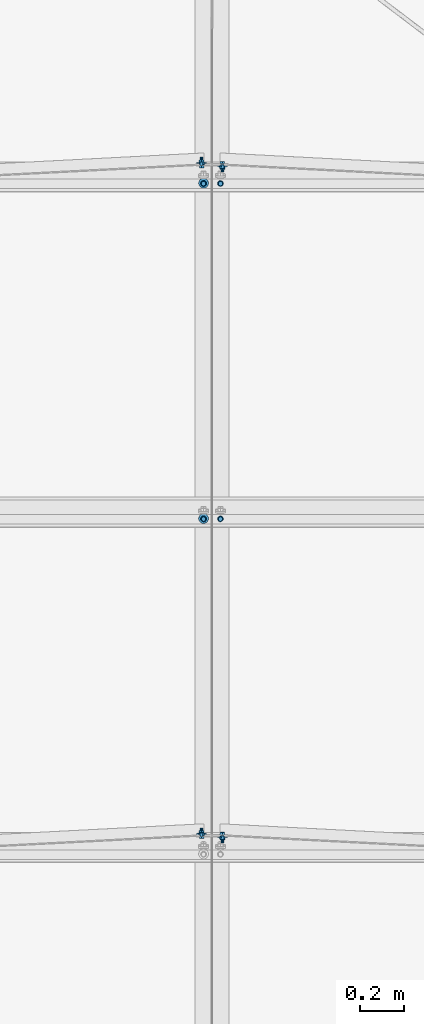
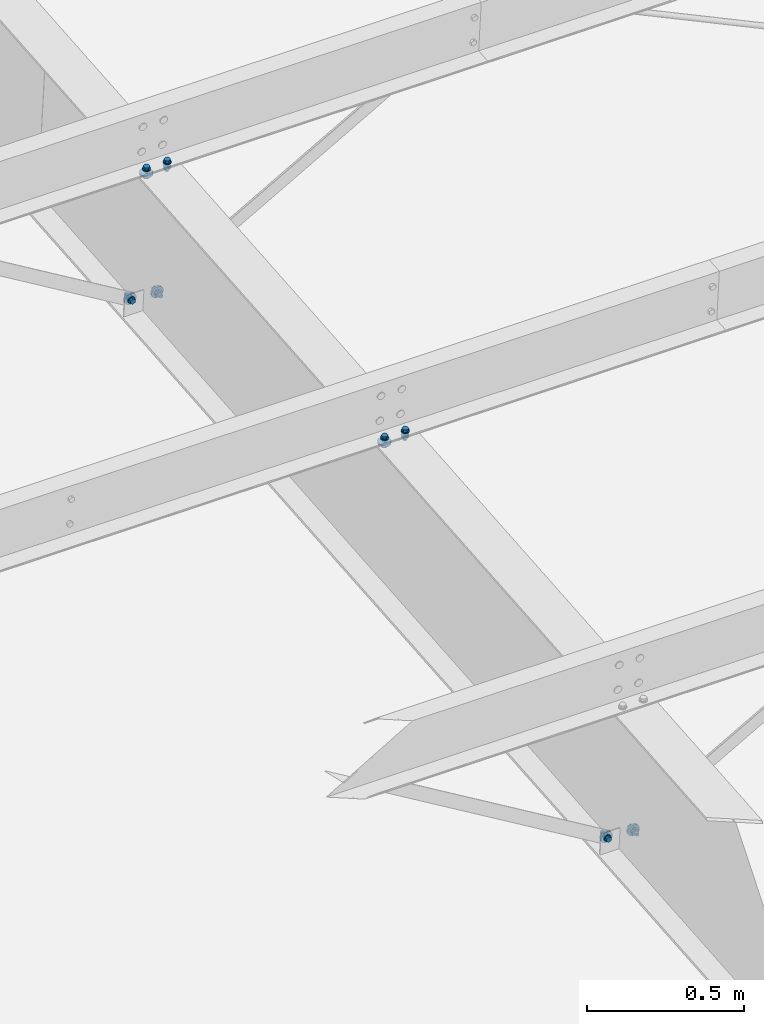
# One storey, part 129 of 185: 12 mechanical fasteners, 7 elements without a shape of their own.
"""IFC2X3 building model written with IfcOpenShell, lengths in millimetres."""

import ifcopenshell
import ifcopenshell.guid

model = None  # the IFC model being written
_history = None  # IfcOwnerHistory: only IFC2X3 demands one
_inside = {}  # id of a spatial element -> (the spatial element, [elements in it])
_under = {}  # id of a project, library or spatial element -> (it, [spatial elements below it])
_declared = {}  # id of a project -> (the project, [libraries it declares])
_typed = {}  # id of a type object -> (the type object, [elements of that type])
_made_of = {}  # id of a material, layer set ... -> (it, [elements and type objects made of it])


def new_model(schema):
    """Start an empty IFC model of exactly this schema.

    Asked for "IFC4X3", IfcOpenShell would pick the latest addendum, in which some entities
    have other attributes; the version numbers below select the first issue.
    IFC2X3 requires an IfcOwnerHistory on every rooted entity: one is made here for all.
    """
    global model, _history
    if schema == "IFC4X3":
        model = ifcopenshell.file(schema_version=(4, 3, 0, 0))
    else:
        model = ifcopenshell.file(schema=schema)
    _inside.clear()
    _under.clear()
    _declared.clear()
    _typed.clear()
    _made_of.clear()
    _history = None
    if model.schema == "IFC2X3":
        org = make("IfcOrganization", Name="unknown")
        user = make(
            "IfcPersonAndOrganization",
            ThePerson=make("IfcPerson", FamilyName="unknown"),
            TheOrganization=org,
        )
        app = make(
            "IfcApplication",
            ApplicationDeveloper=org,
            Version="unknown",
            ApplicationFullName="unknown",
            ApplicationIdentifier="unknown",
        )
        _history = make(
            "IfcOwnerHistory",
            OwningUser=user,
            OwningApplication=app,
            ChangeAction="ADDED",
            CreationDate=0,
        )
    return model


def make(cls, **values):
    """One entity of the class cls with the attributes given. An attribute that is None is left unset."""
    return model.create_entity(
        cls, **{name: value for name, value in values.items() if value is not None}
    )


def rooted(cls, **values):
    """An entity with a GlobalId (a new one), such as an element, a storey or a relation."""
    return make(cls, GlobalId=ifcopenshell.guid.new(), OwnerHistory=_history, **values)


def si_unit(unit_type, name, prefix=None):
    """IfcSIUnit, for example si_unit("LENGTHUNIT", "METRE", prefix="MILLI")."""
    return make("IfcSIUnit", UnitType=unit_type, Prefix=prefix, Name=name)


def assignment(units):
    """IfcUnitAssignment: the units of a project."""
    return None if units is None else make("IfcUnitAssignment", Units=units)


def point(xyz):
    """IfcCartesianPoint."""
    return None if xyz is None else make("IfcCartesianPoint", Coordinates=xyz)


def direction(xyz):
    """IfcDirection."""
    return None if xyz is None else make("IfcDirection", DirectionRatios=xyz)


def frame(location, z_axis=None, x_axis=None):
    """IfcAxis2Placement3D, a coordinate frame: its origin and axes. An axis left out is left unset."""
    return make(
        "IfcAxis2Placement3D",
        Location=point(location),
        Axis=direction(z_axis),
        RefDirection=direction(x_axis),
    )


def frame_2d(location, x_axis=None):
    """IfcAxis2Placement2D, a coordinate frame in the plane: its origin and x axis."""
    return make(
        "IfcAxis2Placement2D", Location=point(location), RefDirection=direction(x_axis)
    )


def origin_with_axes():
    """The frame at (0, 0, 0) with the z axis (0, 0, 1) and the x axis (1, 0, 0) written out."""
    return frame((0.0, 0.0, 0.0), z_axis=(0.0, 0.0, 1.0), x_axis=(1.0, 0.0, 0.0))


def origin_2d_with_axis():
    """The frame at (0, 0) in the plane with the x axis (1, 0) written out."""
    return frame_2d((0.0, 0.0), x_axis=(1.0, 0.0))


def place(relative_to, where):
    """IfcLocalPlacement: puts the frame where relative to a parent placement (None: the world)."""
    return make(
        "IfcLocalPlacement", PlacementRelTo=relative_to, RelativePlacement=where
    )


def context(
    kind, dimensions, precision=None, world=None, true_north=None, identifier=None
):
    """IfcGeometricRepresentationContext, for example the 3D "Model" context."""
    return make(
        "IfcGeometricRepresentationContext",
        ContextIdentifier=identifier,
        ContextType=kind,
        CoordinateSpaceDimension=dimensions,
        Precision=precision,
        WorldCoordinateSystem=world,
        TrueNorth=true_north,
    )


def subcontext(parent, identifier, kind, view, scale=None):
    """IfcGeometricRepresentationSubContext, for example "Body" below "Model"."""
    return make(
        "IfcGeometricRepresentationSubContext",
        ContextIdentifier=identifier,
        ContextType=kind,
        ParentContext=parent,
        TargetScale=scale,
        TargetView=view,
    )


def project(units=None, contexts=None):
    """IfcProject with its units and contexts."""
    return rooted(
        "IfcProject",
        Name="project",
        RepresentationContexts=contexts,
        UnitsInContext=assignment(units),
    )


def spatial(cls, under=None, at=None, **own):
    """A site, building, storey or space (cls), placed at a placement, below another one or the project."""
    s = rooted(cls, ObjectPlacement=at, **own)
    if under is not None:
        _under.setdefault(under.id(), (under, []))[1].append(s)
    return s


def polyline(points):
    """IfcPolyline through the points."""
    return make("IfcPolyline", Points=[point(p) for p in points])


def profile(cls, at=None, kind="AREA", **sizes):
    """A parametric profile (cls). Its sizes go by their IFC names, for example OverallWidth=200.0."""
    return make(cls, ProfileType=kind, Position=at, **sizes)


def circle(**sizes):
    """IfcCircleProfileDef."""
    return profile("IfcCircleProfileDef", **sizes)


def outline(outer, holes=None, kind="AREA"):
    """IfcArbitraryClosedProfileDef: a profile drawn as a closed curve; with holes, ...WithVoids."""
    if holes is None:
        return make("IfcArbitraryClosedProfileDef", ProfileType=kind, OuterCurve=outer)
    return make(
        "IfcArbitraryProfileDefWithVoids",
        ProfileType=kind,
        OuterCurve=outer,
        InnerCurves=holes,
    )


def extrude(swept, where, along, depth):
    """IfcExtrudedAreaSolid: the profile swept, set in the frame where, extruded along a direction by depth."""
    return make(
        "IfcExtrudedAreaSolid",
        SweptArea=swept,
        Position=where,
        ExtrudedDirection=direction(along),
        Depth=depth,
    )


def shape(context_of_items, identifier, shape_type, items):
    """IfcShapeRepresentation: the items that make up one representation, for example the "Body"."""
    return make(
        "IfcShapeRepresentation",
        ContextOfItems=context_of_items,
        RepresentationIdentifier=identifier,
        RepresentationType=shape_type,
        Items=items,
    )


def source(mapping_origin, context_of_items, identifier, shape_type, items):
    """IfcRepresentationMap: a shape defined once, which mapped items show again and again."""
    return make(
        "IfcRepresentationMap",
        MappingOrigin=mapping_origin,
        MappedRepresentation=shape(context_of_items, identifier, shape_type, items),
    )


def transform(
    local_origin,
    x_axis=None,
    y_axis=None,
    z_axis=None,
    scale=None,
    scale2=None,
    scale3=None,
    uniform=True,
):
    """IfcCartesianTransformationOperator3D, or its non-uniform kind. x_axis, y_axis, z_axis: its Axis1, 2, 3."""
    if uniform:
        return make(
            "IfcCartesianTransformationOperator3D",
            Axis1=direction(x_axis),
            Axis2=direction(y_axis),
            LocalOrigin=point(local_origin),
            Scale=scale,
            Axis3=direction(z_axis),
        )
    return make(
        "IfcCartesianTransformationOperator3DnonUniform",
        Axis1=direction(x_axis),
        Axis2=direction(y_axis),
        LocalOrigin=point(local_origin),
        Scale=scale,
        Axis3=direction(z_axis),
        Scale2=scale2,
        Scale3=scale3,
    )


def mapped(mapping_source, mapping_target):
    """IfcMappedItem: shows the shape of a source again, moved by a transform."""
    return make(
        "IfcMappedItem", MappingSource=mapping_source, MappingTarget=mapping_target
    )


def material(Name=None, Category=None):
    """IfcMaterial."""
    return make("IfcMaterial", Name=Name, Category=Category)


def made_of(thing, what):
    """Note that an element or type object is made of a material, layer set ...; save() writes the relation."""
    if what is not None:
        _made_of.setdefault(what.id(), (what, []))[1].append(thing)
    return thing


def type_object(cls, material=None, **own):
    """A type object (cls), such as IfcWallType, which elements share."""
    return made_of(rooted(cls, **own), material)


def element(
    cls,
    number,
    at=None,
    inside=None,
    cuts=None,
    type_object=None,
    material=None,
    context=None,
    identifier="Body",
    shape_type=None,
    held_by="IfcProductDefinitionShape",
    body=None,
    shapes=None,
    **own,
):
    """One element of the class cls, such as IfcWall. Its Tag is "e" and its number.

    at: its placement. inside: the storey or other place that contains it. cuts: it is an
    opening in that element (IfcRelVoidsElement). A single representation is given by context,
    identifier, shape_type and body (its items); several are given by shapes. held_by: the class
    of the entity that holds the representations. save() writes the other relations.
    """
    e = rooted(cls, Tag="e%d" % number, ObjectPlacement=at, **own)
    if body is not None:
        shapes = [shape(context, identifier, shape_type, body)]
    if shapes is not None:
        e.Representation = make(held_by, Representations=shapes)
    if inside is not None:
        _inside.setdefault(inside.id(), (inside, []))[1].append(e)
    if cuts is not None:
        rooted(
            "IfcRelVoidsElement", RelatingBuildingElement=cuts, RelatedOpeningElement=e
        )
    if type_object is not None:
        _typed.setdefault(type_object.id(), (type_object, []))[1].append(e)
    return made_of(e, material)


def aggregate(whole, parts):
    """IfcRelAggregates: a whole, such as a stair, and the parts it consists of."""
    return rooted("IfcRelAggregates", RelatingObject=whole, RelatedObjects=parts)


def save(model, path):
    """Write the relations noted so far, then the file.

    IfcRelAggregates (storeys below a building ...), IfcRelContainedInSpatialStructure (elements
    in a storey), IfcRelDefinesByType, IfcRelAssociatesMaterial and IfcRelDeclares: one each for
    every whole, place, type object, material and project.
    """
    for whole, parts in _under.values():
        aggregate(whole, parts)
    for where, things in _inside.values():
        rooted(
            "IfcRelContainedInSpatialStructure",
            RelatedElements=things,
            RelatingStructure=where,
        )
    for kind, things in _typed.values():
        rooted("IfcRelDefinesByType", RelatedObjects=things, RelatingType=kind)
    for what, things in _made_of.values():
        rooted("IfcRelAssociatesMaterial", RelatedObjects=things, RelatingMaterial=what)
    for by, libraries in _declared.values():
        rooted("IfcRelDeclares", RelatingContext=by, RelatedDefinitions=libraries)
    model.write(path)


model = new_model("IFC2X3")

# Units and contexts
model_context = context("Model", 3, precision=1e-05, world=origin_with_axes())
body_context = subcontext(model_context, "Body", "Model", "MODEL_VIEW")
ifc_project = project(units=[si_unit("LENGTHUNIT", "METRE", prefix="MILLI"), si_unit("AREAUNIT", "SQUARE_METRE"), si_unit("VOLUMEUNIT", "CUBIC_METRE"), si_unit("MASSUNIT", "GRAM", prefix="KILO"), si_unit("TIMEUNIT", "SECOND"), si_unit("PLANEANGLEUNIT", "RADIAN"), si_unit("SOLIDANGLEUNIT", "STERADIAN"), si_unit("THERMODYNAMICTEMPERATUREUNIT", "DEGREE_CELSIUS"), si_unit("LUMINOUSINTENSITYUNIT", "LUMEN")], contexts=[model_context])

# Site, building, storey
site_placement = place(None, origin_with_axes())
site = spatial("IfcSite", under=ifc_project, at=site_placement, Name="Undefined", CompositionType="ELEMENT")
building_placement = place(site_placement, origin_with_axes())
building = spatial("IfcBuilding", under=site, at=building_placement, Name="Undefined", CompositionType="ELEMENT")
storey_placement = place(building_placement, origin_with_axes())
storey = spatial("IfcBuildingStorey", under=building, at=storey_placement, Name="Undefined", CompositionType="ELEMENT", Elevation=0.0)

# Assembly, mechanical fastener
assembly_1_placement = place(storey_placement, origin_with_axes())
assembly_1 = element("IfcElementAssembly", 1, at=assembly_1_placement, inside=storey, Name="Steel Assembly", AssemblyPlace="NOTDEFINED", PredefinedType="RIGID_FRAME")
ifc_material_1 = material(Name="Undefined")
discrete_accessory_type = type_object("IfcDiscreteAccessoryType", Name="Bolt assembly")
shared_shape_1 = source(origin_with_axes(), body_context, "Body", "SweptSolid", [
    extrude(circle(Radius=7.14374971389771, at=origin_2d_with_axis()), frame((0.0, -1.59000001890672, 0.0), z_axis=(0.0, 1.0, 0.0), x_axis=(1.0, 0.0, 0.0)), (0.0, 0.0, 1.0), 1.7),
    extrude(outline(polyline([(10.9985221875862, 0.0), (5.4992610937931, 9.52499961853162), (-5.4992610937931, 9.52499961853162), (-10.9985221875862, 0.0), (-5.4992610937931, -9.52499961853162), (5.4992610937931, -9.52499961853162), (10.9985221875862, 0.0)])), frame((0.0, -15.0837496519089, 0.0), z_axis=(0.0, 1.0, 0.0), x_axis=(1.0, 0.0, 0.0)), (0.0, 0.0, 1.0), 9.5),
    extrude(circle(Radius=6.34999990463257, at=origin_2d_with_axis()), frame((0.0, -5.5587500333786, 0.0), z_axis=(0.0, 1.0, 0.0), x_axis=(1.0, 0.0, 0.0)), (0.0, 0.0, 1.0), 38.1),
    extrude(circle(Radius=13.4937496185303, at=origin_2d_with_axis()), frame((0.0, -5.5587500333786, 0.0), z_axis=(0.0, 1.0, 0.0), x_axis=(1.0, 0.0, 0.0)), (0.0, 0.0, 1.0), 4.0),
    extrude(circle(Radius=22.2250003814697, at=origin_2d_with_axis()), frame((0.0, 0.0, 0.0), z_axis=(0.0, 1.0, 0.0), x_axis=(1.0, 0.0, 0.0)), (0.0, 0.0, 1.0), 7.9),
    extrude(outline(polyline([(12.8316099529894, 0.0), (6.4158049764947, 11.1125001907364), (-6.4158049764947, 11.1125001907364), (-12.8316099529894, 0.0), (-6.4158049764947, -11.1125001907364), (6.4158049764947, -11.1125001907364), (12.8316099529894, 0.0)])), frame((0.0, 7.93750000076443, 0.0), z_axis=(0.0, 1.0, 0.0), x_axis=(1.0, 0.0, 0.0)), (0.0, 0.0, 1.0), 12.3),
])
mechanical_fastener_1_placement = place(assembly_1_placement, frame((7286.00605207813, 8167.6804481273, 6014.11103483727), z_axis=(0.530152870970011, 0.0704144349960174, -0.844973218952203), x_axis=(0.847902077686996, -0.044026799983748, 0.528321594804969)))
mechanical_fastener_1 = element("IfcMechanicalFastener", 2, at=mechanical_fastener_1_placement, type_object=discrete_accessory_type, material=ifc_material_1, Name="Bolt assembly", NominalDiameter=12.6999998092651, NominalLength=38.0999984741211, context=body_context, shape_type="MappedRepresentation", body=[
    mapped(shared_shape_1, transform((0.0, 0.0, 0.0))),
])
aggregate(assembly_1, [mechanical_fastener_1])

assembly_2_placement = place(storey_placement, origin_with_axes())
assembly_2 = element("IfcElementAssembly", 3, at=assembly_2_placement, inside=storey, Name="Steel Assembly", AssemblyPlace="NOTDEFINED", PredefinedType="RIGID_FRAME")
mechanical_fastener_2_placement = place(assembly_2_placement, frame((7286.00605207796, 11205.1519192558, 6267.2336574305), z_axis=(0.530152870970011, 0.0704144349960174, -0.844973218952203), x_axis=(0.847902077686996, -0.044026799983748, 0.528321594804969)))
mechanical_fastener_2 = element("IfcMechanicalFastener", 4, at=mechanical_fastener_2_placement, type_object=discrete_accessory_type, material=ifc_material_1, Name="Bolt assembly", NominalDiameter=12.6999998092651, NominalLength=38.0999984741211, context=body_context, shape_type="MappedRepresentation", body=[
    mapped(shared_shape_1, transform((0.0, 0.0, 0.0))),
])
aggregate(assembly_2, [mechanical_fastener_2])

assembly_3_placement = place(storey_placement, origin_with_axes())
assembly_3 = element("IfcElementAssembly", 5, at=assembly_3_placement, inside=storey, Name="Steel Assembly", AssemblyPlace="NOTDEFINED", PredefinedType="RIGID_FRAME")
shared_shape_2 = source(origin_with_axes(), body_context, "Body", "SweptSolid", [
    extrude(circle(Radius=7.14374971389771, at=origin_2d_with_axis()), frame((0.0, 0.0, 0.0), z_axis=(0.0, 1.0, 0.0), x_axis=(1.0, 0.0, 0.0)), (0.0, 0.0, 1.0), 1.7),
    extrude(outline(polyline([(10.9985221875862, 0.0), (5.4992610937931, 9.52499961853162), (-5.4992610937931, 9.52499961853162), (-10.9985221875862, 0.0), (-5.4992610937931, -9.52499961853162), (5.4992610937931, -9.52499961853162), (10.9985221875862, 0.0)])), frame((0.0, -13.4937496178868, 0.0), z_axis=(0.0, 1.0, 0.0), x_axis=(1.0, 0.0, 0.0)), (0.0, 0.0, 1.0), 9.5),
    extrude(circle(Radius=6.34999990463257, at=origin_2d_with_axis()), frame((0.0, -3.96874999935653, 0.0), z_axis=(0.0, 1.0, 0.0), x_axis=(1.0, 0.0, 0.0)), (0.0, 0.0, 1.0), 38.1),
    extrude(circle(Radius=13.4937496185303, at=origin_2d_with_axis()), frame((0.0, -3.96874999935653, 0.0), z_axis=(0.0, 1.0, 0.0), x_axis=(1.0, 0.0, 0.0)), (0.0, 0.0, 1.0), 4.0),
    extrude(circle(Radius=22.2250003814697, at=origin_2d_with_axis()), frame((0.0, 1.5900000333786, 0.0), z_axis=(0.0, 1.0, 0.0), x_axis=(1.0, 0.0, 0.0)), (0.0, 0.0, 1.0), 7.9),
    extrude(outline(polyline([(12.8316099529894, 0.0), (6.4158049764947, 11.1125001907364), (-6.4158049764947, 11.1125001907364), (-12.8316099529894, 0.0), (-6.4158049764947, -11.1125001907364), (6.4158049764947, -11.1125001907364), (12.8316099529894, 0.0)])), frame((0.0, 9.5275000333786, 0.0), z_axis=(0.0, 1.0, 0.0), x_axis=(1.0, 0.0, 0.0)), (0.0, 0.0, 1.0), 12.3),
])
mechanical_fastener_3_placement = place(assembly_3_placement, frame((7191.99394792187, 8167.6804481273, 6014.11103483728), z_axis=(-0.530152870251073, 0.070414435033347, -0.844973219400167), x_axis=(-0.847902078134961, -0.0440268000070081, 0.528321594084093)))
mechanical_fastener_3 = element("IfcMechanicalFastener", 6, at=mechanical_fastener_3_placement, type_object=discrete_accessory_type, material=ifc_material_1, Name="Bolt assembly", NominalDiameter=12.6999998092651, NominalLength=38.0999984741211, context=body_context, shape_type="MappedRepresentation", body=[
    mapped(shared_shape_2, transform((0.0, 0.0, 0.0))),
])
aggregate(assembly_3, [mechanical_fastener_3])

assembly_4_placement = place(storey_placement, origin_with_axes())
assembly_4 = element("IfcElementAssembly", 7, at=assembly_4_placement, inside=storey, Name="Steel Assembly", AssemblyPlace="NOTDEFINED", PredefinedType="RIGID_FRAME")
mechanical_fastener_4_placement = place(assembly_4_placement, frame((7191.99394792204, 11205.1519192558, 6267.23365743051), z_axis=(-0.530152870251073, 0.070414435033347, -0.844973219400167), x_axis=(-0.847902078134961, -0.0440268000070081, 0.528321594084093)))
mechanical_fastener_4 = element("IfcMechanicalFastener", 8, at=mechanical_fastener_4_placement, type_object=discrete_accessory_type, material=ifc_material_1, Name="Bolt assembly", NominalDiameter=12.6999998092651, NominalLength=38.0999984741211, context=body_context, shape_type="MappedRepresentation", body=[
    mapped(shared_shape_2, transform((0.0, 0.0, 0.0))),
])
aggregate(assembly_4, [mechanical_fastener_4])

# Assembly, mechanical fasteners
assembly_5_placement = place(storey_placement, origin_with_axes())
assembly_5 = element("IfcElementAssembly", 9, at=assembly_5_placement, inside=storey, Name="Steel Assembly", AssemblyPlace="NOTDEFINED", PredefinedType="RIGID_FRAME")
ifc_material_2 = material(Name="7990")
shared_shape_3 = source(origin_with_axes(), body_context, "Body", "SweptSolid", [
    extrude(circle(Radius=7.14374971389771, at=origin_2d_with_axis()), frame((0.0, -3.41600000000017, 0.0), z_axis=(0.0, 1.0, 0.0), x_axis=(1.0, 0.0, 0.0)), (0.0, 0.0, 1.0), 3.5),
    extrude(circle(Radius=11.4299998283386, at=origin_2d_with_axis()), frame((0.0, 0.0, 0.0), z_axis=(0.0, 1.0, 0.0), x_axis=(1.0, 0.0, 0.0)), (0.0, 0.0, 1.0), 4.2),
    extrude(outline(polyline([(12.171698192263, 0.0), (6.08584909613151, 10.5409998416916), (-6.08584909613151, 10.5409998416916), (-12.171698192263, 0.0), (-6.08584909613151, -10.5409998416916), (6.08584909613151, -10.5409998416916), (12.171698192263, 0.0)])), frame((0.0, 4.1909999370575, 0.0), z_axis=(0.0, 1.0, 0.0), x_axis=(1.0, 0.0, 0.0)), (0.0, 0.0, 1.0), 8.4),
])
mechanical_fastener_5_placement = place(assembly_5_placement, frame((7192.84185, 8167.72447492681, 6013.58271324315), z_axis=(0.921635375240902, 0.0322263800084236, -0.386716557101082), x_axis=(-0.388056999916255, 0.0765376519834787, -0.9184518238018)))
mechanical_fastener_5 = element("IfcMechanicalFastener", 10, at=mechanical_fastener_5_placement, type_object=discrete_accessory_type, material=ifc_material_2, Name="Bolt assembly", NominalDiameter=12.6999998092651, NominalLength=38.0999984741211, context=body_context, shape_type="MappedRepresentation", body=[
    mapped(shared_shape_3, transform((0.0, 0.0, 0.0))),
])
mechanical_fastener_6_placement = place(assembly_5_placement, frame((7192.84185, 11205.1959460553, 6266.70533583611), z_axis=(0.921635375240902, 0.0322263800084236, -0.386716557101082), x_axis=(-0.388056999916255, 0.0765376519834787, -0.9184518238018)))
mechanical_fastener_6 = element("IfcMechanicalFastener", 11, at=mechanical_fastener_6_placement, type_object=discrete_accessory_type, material=ifc_material_2, Name="Bolt assembly", NominalDiameter=12.6999998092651, NominalLength=38.0999984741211, context=body_context, shape_type="MappedRepresentation", body=[
    mapped(shared_shape_3, transform((0.0, 0.0, 0.0))),
])
shared_shape_4 = source(origin_with_axes(), body_context, "Body", "SweptSolid", [
    extrude(circle(Radius=7.14374971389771, at=origin_2d_with_axis()), frame((0.0, 0.0, 0.0), z_axis=(0.0, 1.0, 0.0), x_axis=(1.0, 0.0, 0.0)), (0.0, 0.0, 1.0), 3.5),
    extrude(circle(Radius=11.4299998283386, at=origin_2d_with_axis()), frame((0.0, 3.41600000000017, 0.0), z_axis=(0.0, 1.0, 0.0), x_axis=(1.0, 0.0, 0.0)), (0.0, 0.0, 1.0), 4.2),
    extrude(outline(polyline([(12.171698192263, 0.0), (6.08584909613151, 10.5409998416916), (-6.08584909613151, 10.5409998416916), (-12.171698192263, 0.0), (-6.08584909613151, -10.5409998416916), (6.08584909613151, -10.5409998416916), (12.171698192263, 0.0)])), frame((0.0, 7.60699993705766, 0.0), z_axis=(0.0, 1.0, 0.0), x_axis=(1.0, 0.0, 0.0)), (0.0, 0.0, 1.0), 8.4),
])
mechanical_fastener_7_placement = place(assembly_5_placement, frame((7285.15815, 8167.72447492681, 6013.58271324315), z_axis=(-0.921635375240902, 0.0322263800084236, -0.386716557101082), x_axis=(0.388056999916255, 0.0765376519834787, -0.9184518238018)))
mechanical_fastener_7 = element("IfcMechanicalFastener", 12, at=mechanical_fastener_7_placement, type_object=discrete_accessory_type, material=ifc_material_2, Name="Bolt assembly", NominalDiameter=12.6999998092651, NominalLength=38.0999984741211, context=body_context, shape_type="MappedRepresentation", body=[
    mapped(shared_shape_4, transform((0.0, 0.0, 0.0))),
])
mechanical_fastener_8_placement = place(assembly_5_placement, frame((7285.15815, 11205.1959460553, 6266.70533583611), z_axis=(-0.921635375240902, 0.0322263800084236, -0.386716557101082), x_axis=(0.388056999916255, 0.0765376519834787, -0.9184518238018)))
mechanical_fastener_8 = element("IfcMechanicalFastener", 13, at=mechanical_fastener_8_placement, type_object=discrete_accessory_type, material=ifc_material_2, Name="Bolt assembly", NominalDiameter=12.6999998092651, NominalLength=38.0999984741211, context=body_context, shape_type="MappedRepresentation", body=[
    mapped(shared_shape_4, transform((0.0, 0.0, 0.0))),
])
aggregate(assembly_5, [mechanical_fastener_7, mechanical_fastener_5, mechanical_fastener_8, mechanical_fastener_6])

# Assembly, mechanical fastener
assembly_6_placement = place(storey_placement, origin_with_axes())
assembly_6 = element("IfcElementAssembly", 14, at=assembly_6_placement, inside=storey, Name="Steel Assembly", AssemblyPlace="NOTDEFINED", PredefinedType="RIGID_FRAME")
shared_shape_5 = source(origin_with_axes(), body_context, "Body", "SweptSolid", [
    extrude(circle(Radius=7.14374971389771, at=origin_2d_with_axis()), frame((0.0, -0.0238014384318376, 0.0), z_axis=(0.0, 1.0, 0.0), x_axis=(1.0, 0.0, 0.0)), (0.0, 0.0, 1.0), 8.0),
    extrude(circle(Radius=7.14374971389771, at=origin_2d_with_axis()), frame((0.0, -3.18000030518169, 0.0), z_axis=(0.0, 1.0, 0.0), x_axis=(1.0, 0.0, 0.0)), (0.0, 0.0, 1.0), 3.2),
    extrude(circle(Radius=7.14374971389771, at=origin_2d_with_axis()), frame((0.0, -3.08000006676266, 0.0), z_axis=(0.0, 1.0, 0.0), x_axis=(1.0, 0.0, 0.0)), (0.0, 0.0, 1.0), 3.2),
    extrude(outline(polyline([(10.9985221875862, 0.0), (5.4992610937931, 9.52499961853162), (-5.4992610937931, 9.52499961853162), (-10.9985221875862, 0.0), (-5.4992610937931, -9.52499961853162), (5.4992610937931, -9.52499961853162), (10.9985221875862, 0.0)])), frame((0.0, -16.6737496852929, 0.0), z_axis=(0.0, 1.0, 0.0), x_axis=(1.0, 0.0, 0.0)), (0.0, 0.0, 1.0), 9.5),
    extrude(circle(Radius=6.34999990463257, at=origin_2d_with_axis()), frame((0.0, -7.14875006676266, 0.0), z_axis=(0.0, 1.0, 0.0), x_axis=(1.0, 0.0, 0.0)), (0.0, 0.0, 1.0), 38.1),
    extrude(circle(Radius=13.4937496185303, at=origin_2d_with_axis()), frame((0.0, -7.14875006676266, 0.0), z_axis=(0.0, 1.0, 0.0), x_axis=(1.0, 0.0, 0.0)), (0.0, 0.0, 1.0), 4.0),
    extrude(circle(Radius=22.2250003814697, at=origin_2d_with_axis()), frame((0.0, 7.95019856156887, 0.0), z_axis=(0.0, 1.0, 0.0), x_axis=(1.0, 0.0, 0.0)), (0.0, 0.0, 1.0), 7.9),
    extrude(outline(polyline([(12.8316099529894, 0.0), (6.4158049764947, 11.1125001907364), (-6.4158049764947, 11.1125001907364), (-12.8316099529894, 0.0), (-6.4158049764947, -11.1125001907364), (6.4158049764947, -11.1125001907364), (12.8316099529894, 0.0)])), frame((0.0, 15.8876985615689, 0.0), z_axis=(0.0, 1.0, 0.0), x_axis=(1.0, 0.0, 0.0)), (0.0, 0.0, 1.0), 12.3),
])
mechanical_fastener_9_placement = place(assembly_6_placement, frame((7200.9, 9602.21678319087, 6692.28039869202), z_axis=(1.0, 0.0, 0.0), x_axis=(0.0, -0.996545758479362, -0.0830454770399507)))
mechanical_fastener_9 = element("IfcMechanicalFastener", 15, at=mechanical_fastener_9_placement, type_object=discrete_accessory_type, material=ifc_material_1, Name="Bolt assembly", NominalDiameter=12.6999998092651, NominalLength=38.0999984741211, context=body_context, shape_type="MappedRepresentation", body=[
    mapped(shared_shape_5, transform((0.0, 0.0, 0.0))),
])

assembly_7_placement = place(storey_placement, origin_with_axes())
assembly_7 = element("IfcElementAssembly", 16, at=assembly_7_placement, inside=storey, Name="Steel Assembly", AssemblyPlace="NOTDEFINED", PredefinedType="RIGID_FRAME")
mechanical_fastener_10_placement = place(assembly_7_placement, frame((7200.9, 11120.9525187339, 6818.84171024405), z_axis=(1.0, 0.0, 0.0), x_axis=(0.0, -0.996545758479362, -0.0830454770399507)))
mechanical_fastener_10 = element("IfcMechanicalFastener", 17, at=mechanical_fastener_10_placement, type_object=discrete_accessory_type, material=ifc_material_1, Name="Bolt assembly", NominalDiameter=12.6999998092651, NominalLength=38.0999984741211, context=body_context, shape_type="MappedRepresentation", body=[
    mapped(shared_shape_5, transform((0.0, 0.0, 0.0))),
])

# Mechanical fastener
shared_shape_6 = source(origin_with_axes(), body_context, "Body", "SweptSolid", [
    extrude(circle(Radius=7.14374971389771, at=origin_2d_with_axis()), frame((0.0, -0.0238014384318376, 0.0), z_axis=(0.0, 1.0, 0.0), x_axis=(1.0, 0.0, 0.0)), (0.0, 0.0, 1.0), 8.0),
    extrude(circle(Radius=7.14374971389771, at=origin_2d_with_axis()), frame((0.0, -3.18000030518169, 0.0), z_axis=(0.0, 1.0, 0.0), x_axis=(1.0, 0.0, 0.0)), (0.0, 0.0, 1.0), 3.2),
    extrude(circle(Radius=7.14374971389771, at=origin_2d_with_axis()), frame((0.0, -3.08000006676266, 0.0), z_axis=(0.0, 1.0, 0.0), x_axis=(1.0, 0.0, 0.0)), (0.0, 0.0, 1.0), 3.2),
    extrude(outline(polyline([(10.9985221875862, 0.0), (5.4992610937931, 9.52499961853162), (-5.4992610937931, 9.52499961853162), (-10.9985221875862, 0.0), (-5.4992610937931, -9.52499961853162), (5.4992610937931, -9.52499961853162), (10.9985221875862, 0.0)])), frame((0.0, -16.6737496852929, 0.0), z_axis=(0.0, 1.0, 0.0), x_axis=(1.0, 0.0, 0.0)), (0.0, 0.0, 1.0), 9.5),
    extrude(circle(Radius=6.34999990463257, at=origin_2d_with_axis()), frame((0.0, -7.14875006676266, 0.0), z_axis=(0.0, 1.0, 0.0), x_axis=(1.0, 0.0, 0.0)), (0.0, 0.0, 1.0), 38.1),
    extrude(circle(Radius=13.4937496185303, at=origin_2d_with_axis()), frame((0.0, -7.14875006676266, 0.0), z_axis=(0.0, 1.0, 0.0), x_axis=(1.0, 0.0, 0.0)), (0.0, 0.0, 1.0), 4.0),
    extrude(outline(polyline([(12.8316099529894, 0.0), (6.4158049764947, 11.1125001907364), (-6.4158049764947, 11.1125001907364), (-12.8316099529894, 0.0), (-6.4158049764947, -11.1125001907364), (6.4158049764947, -11.1125001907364), (12.8316099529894, 0.0)])), frame((0.0, 7.95019856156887, 0.0), z_axis=(0.0, 1.0, 0.0), x_axis=(1.0, 0.0, 0.0)), (0.0, 0.0, 1.0), 12.3),
])
mechanical_fastener_11_placement = place(assembly_6_placement, frame((7277.1, 9602.21678319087, 6692.28039869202), z_axis=(1.0, 0.0, 0.0), x_axis=(0.0, -0.996545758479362, -0.0830454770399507)))
mechanical_fastener_11 = element("IfcMechanicalFastener", 18, at=mechanical_fastener_11_placement, type_object=discrete_accessory_type, material=ifc_material_1, Name="Bolt assembly", NominalDiameter=12.6999998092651, NominalLength=38.0999984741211, context=body_context, shape_type="MappedRepresentation", body=[
    mapped(shared_shape_6, transform((0.0, 0.0, 0.0))),
])

aggregate(assembly_6, [mechanical_fastener_9, mechanical_fastener_11])

mechanical_fastener_12_placement = place(assembly_7_placement, frame((7277.1, 11120.9525187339, 6818.84171024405), z_axis=(1.0, 0.0, 0.0), x_axis=(0.0, -0.996545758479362, -0.0830454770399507)))
mechanical_fastener_12 = element("IfcMechanicalFastener", 19, at=mechanical_fastener_12_placement, type_object=discrete_accessory_type, material=ifc_material_1, Name="Bolt assembly", NominalDiameter=12.6999998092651, NominalLength=38.0999984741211, context=body_context, shape_type="MappedRepresentation", body=[
    mapped(shared_shape_6, transform((0.0, 0.0, 0.0))),
])

aggregate(assembly_7, [mechanical_fastener_10, mechanical_fastener_12])

save(model, "model.ifc")
